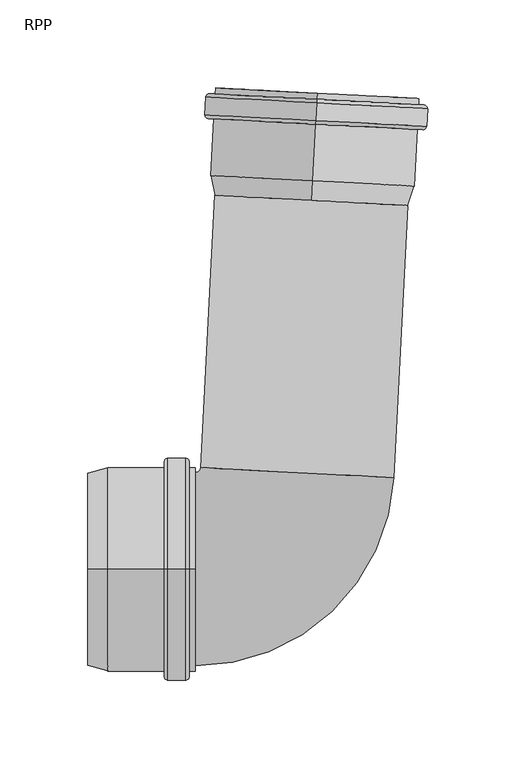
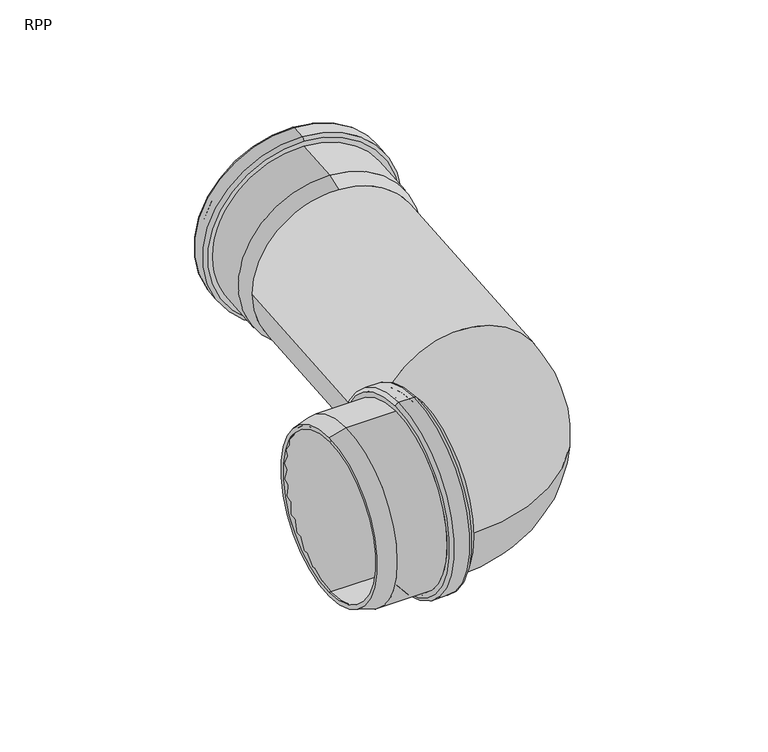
"""IFC4 building model written with IfcOpenShell, lengths in millimetres: pipe fitting geometry, RAUPIANO PLUS Deflection Bend : RPP."""

from ifc_helpers import new_model, si_unit, point, frame, origin, place, context, project, spatial, polyline, circle_curve, ellipse_curve, trimmed, source, transform, mapped, element, save
from ifc_brep_helpers import plane_surface, cylinder_surface, revolved_surface, advanced_brep


def rpp_797b765d(model_context):
    return source(origin(), model_context, "Body", "AdvancedBrep", [
        advanced_brep(
        [(-69.9399449, 0.0, 55.3), (-69.9399449, 0.0, -55.3), (-104.5883307, 0.0, -55.3), (-104.5883307, 0.0, 55.3), (-69.4399449, 0.0, 60.7), (-69.4399449, 0.0, -60.7), (-69.9399449, 0.0, -60.2), (-69.9399449, 0.0, 60.2), (-61.7399449, 0.0, 60.7), (-61.7399449, 0.0, -60.7), (-61.2399449, 0.0, 60.2), (-61.2399449, 0.0, -60.2), (-55.0399449, 0.0, 55.3), (-55.0399449, 0.0, -55.3), (-61.2399449, 0.0, -55.3), (-61.2399449, 0.0, 55.3), (-58.5399449, 0.0, 58.0), (-58.5399449, 0.0, -58.0), (-55.0399449, 0.0, -58.0), (-55.0399449, 0.0, 58.0), (-60.5399449, 0.0, 63.4), (-60.5399449, 0.0, -63.4), (-58.5399449, 0.0, -61.4), (-58.5399449, 0.0, 61.4), (-70.6399449, 0.0, 63.4), (-70.6399449, 0.0, -63.4), (-72.6399449, 0.0, 61.4), (-72.6399449, 0.0, -61.4), (-104.9437924, 0.0, 58.0), (-104.9437924, 0.0, -58.0), (-72.6399449, 0.0, -58.0), (-72.6399449, 0.0, 58.0), (-116.1399449, 0.0, 55.0), (-116.1399449, 0.0, -55.0), (-116.1399449, 0.0, -52.2047543), (-116.1399449, 0.0, 52.2047543)],
        [
            (0, 1, circle_curve(frame((-69.9399449, 0.0, 0.0), z_axis=(1.0, 0.0, 0.0), x_axis=(0.0, 0.0, -1.0)), 55.3)),
            (1, 2),
            (2, 3, circle_curve(frame((-104.5883307, 0.0, 0.0), z_axis=(-1.0, 0.0, 0.0), x_axis=(0.0, 0.0, -1.0)), 55.3)),
            (3, 0),
            (4, 5, circle_curve(frame((-69.4399449, 0.0, 0.0), z_axis=(1.0, 0.0, 0.0), x_axis=(0.0, 0.0, -1.0)), 60.7)),
            (5, 6, circle_curve(frame((-69.4399449, 0.0, -60.2), z_axis=(0.0, 1.0, 0.0), x_axis=(0.0, 0.0, 1.0)), 0.5)),
            (6, 7, circle_curve(frame((-69.9399449, 0.0, 0.0), z_axis=(-1.0, 0.0, 0.0), x_axis=(0.0, 0.0, -1.0)), 60.2)),
            (7, 4, circle_curve(frame((-69.4399449, 0.0, 60.2), z_axis=(0.0, 1.0, 0.0), x_axis=(0.0, 0.0, -1.0)), 0.5)),
            (8, 9, circle_curve(frame((-61.7399449, 0.0, 0.0), z_axis=(1.0, 0.0, 0.0), x_axis=(0.0, 0.0, -1.0)), 60.7)),
            (9, 5),
            (4, 8),
            (10, 11, circle_curve(frame((-61.2399449, 0.0, 0.0), z_axis=(1.0, 0.0, 0.0), x_axis=(0.0, 0.0, -1.0)), 60.2)),
            (11, 9, circle_curve(frame((-61.7399449, 0.0, -60.2), z_axis=(0.0, 1.0, 0.0), x_axis=(0.0, 0.0, 1.0)), 0.5)),
            (8, 10, circle_curve(frame((-61.7399449, 0.0, 60.2), z_axis=(0.0, 1.0, 0.0), x_axis=(0.0, 0.0, -1.0)), 0.5)),
            (12, 13, circle_curve(frame((-55.0399449, 0.0, 0.0), z_axis=(1.0, 0.0, 0.0), x_axis=(0.0, 0.0, -1.0)), 55.3)),
            (13, 14),
            (14, 15, circle_curve(frame((-61.2399449, 0.0, 0.0), z_axis=(-1.0, 0.0, 0.0), x_axis=(0.0, 0.0, -1.0)), 55.3)),
            (15, 12),
            (16, 17, circle_curve(frame((-58.5399449, 0.0, 0.0), z_axis=(1.0, 0.0, 0.0), x_axis=(0.0, 0.0, -1.0)), 58.0)),
            (17, 18),
            (18, 19, circle_curve(frame((-55.0399449, 0.0, 0.0), z_axis=(-1.0, 0.0, 0.0), x_axis=(0.0, 0.0, -1.0)), 58.0)),
            (19, 16),
            (20, 21, circle_curve(frame((-60.5399449, 0.0, 0.0), z_axis=(1.0, 0.0, 0.0), x_axis=(0.0, 0.0, -1.0)), 63.4)),
            (21, 22, circle_curve(frame((-60.5399449, 0.0, -61.4), z_axis=(0.0, -1.0, 0.0), x_axis=(0.0, 0.0, 1.0)), 2.0)),
            (22, 23, circle_curve(frame((-58.5399449, 0.0, 0.0), z_axis=(-1.0, 0.0, 0.0), x_axis=(0.0, 0.0, -1.0)), 61.4)),
            (23, 20, circle_curve(frame((-60.5399449, 0.0, 61.4), z_axis=(0.0, -1.0, 0.0), x_axis=(0.0, 0.0, -1.0)), 2.0)),
            (24, 25, circle_curve(frame((-70.6399449, 0.0, 0.0), z_axis=(1.0, 0.0, 0.0), x_axis=(0.0, 0.0, -1.0)), 63.4)),
            (25, 21),
            (20, 24),
            (26, 27, circle_curve(frame((-72.6399449, 0.0, 0.0), z_axis=(1.0, 0.0, 0.0), x_axis=(0.0, 0.0, -1.0)), 61.4)),
            (27, 25, circle_curve(frame((-70.6399449, 0.0, -61.4), z_axis=(0.0, -1.0, 0.0), x_axis=(0.0, 0.0, 1.0)), 2.0)),
            (24, 26, circle_curve(frame((-70.6399449, 0.0, 61.4), z_axis=(0.0, -1.0, 0.0), x_axis=(0.0, 0.0, -1.0)), 2.0)),
            (28, 29, circle_curve(frame((-104.9437924, 0.0, 0.0), z_axis=(1.0, 0.0, 0.0), x_axis=(0.0, 0.0, -1.0)), 58.0)),
            (29, 30),
            (30, 31, circle_curve(frame((-72.6399449, 0.0, 0.0), z_axis=(-1.0, 0.0, 0.0), x_axis=(0.0, 0.0, -1.0)), 58.0)),
            (31, 28),
            (32, 33, circle_curve(frame((-116.1399449, 0.0, 0.0), z_axis=(1.0, 0.0, 0.0), x_axis=(0.0, 0.0, -1.0)), 55.0)),
            (33, 29),
            (28, 32),
            (2, 34),
            (34, 35, circle_curve(frame((-116.1399449, 0.0, 0.0), z_axis=(-1.0, 0.0, 0.0), x_axis=(0.0, 0.0, -1.0)), 52.2047543)),
            (35, 3),
            (1, 0, circle_curve(frame((-69.9399449, 0.0, 0.0), z_axis=(1.0, 0.0, 0.0), x_axis=(0.0, 0.0, 1.0)), 55.3)),
            (3, 2, circle_curve(frame((-104.5883307, 0.0, 0.0), z_axis=(-1.0, 0.0, 0.0), x_axis=(0.0, 0.0, 1.0)), 55.3)),
            (6, 7, circle_curve(frame((-69.9399449, 0.0, 0.0), z_axis=(1.0, 0.0, 0.0), x_axis=(0.0, 0.0, 1.0)), 60.2)),
            (5, 4, circle_curve(frame((-69.4399449, 0.0, 0.0), z_axis=(1.0, 0.0, 0.0), x_axis=(0.0, 0.0, 1.0)), 60.7)),
            (9, 8, circle_curve(frame((-61.7399449, 0.0, 0.0), z_axis=(1.0, 0.0, 0.0), x_axis=(0.0, 0.0, 1.0)), 60.7)),
            (11, 10, circle_curve(frame((-61.2399449, 0.0, 0.0), z_axis=(1.0, 0.0, 0.0), x_axis=(0.0, 0.0, 1.0)), 60.2)),
            (14, 15, circle_curve(frame((-61.2399449, 0.0, 0.0), z_axis=(1.0, 0.0, 0.0), x_axis=(0.0, 0.0, 1.0)), 55.3)),
            (13, 12, circle_curve(frame((-55.0399449, 0.0, 0.0), z_axis=(1.0, 0.0, 0.0), x_axis=(0.0, 0.0, 1.0)), 55.3)),
            (18, 19, circle_curve(frame((-55.0399449, 0.0, 0.0), z_axis=(1.0, 0.0, 0.0), x_axis=(0.0, 0.0, 1.0)), 58.0)),
            (17, 16, circle_curve(frame((-58.5399449, 0.0, 0.0), z_axis=(1.0, 0.0, 0.0), x_axis=(0.0, 0.0, 1.0)), 58.0)),
            (22, 23, circle_curve(frame((-58.5399449, 0.0, 0.0), z_axis=(1.0, 0.0, 0.0), x_axis=(0.0, 0.0, 1.0)), 61.4)),
            (21, 20, circle_curve(frame((-60.5399449, 0.0, 0.0), z_axis=(1.0, 0.0, 0.0), x_axis=(0.0, 0.0, 1.0)), 63.4)),
            (25, 24, circle_curve(frame((-70.6399449, 0.0, 0.0), z_axis=(1.0, 0.0, 0.0), x_axis=(0.0, 0.0, 1.0)), 63.4)),
            (27, 26, circle_curve(frame((-72.6399449, 0.0, 0.0), z_axis=(1.0, 0.0, 0.0), x_axis=(0.0, 0.0, 1.0)), 61.4)),
            (30, 31, circle_curve(frame((-72.6399449, 0.0, 0.0), z_axis=(1.0, 0.0, 0.0), x_axis=(0.0, 0.0, 1.0)), 58.0)),
            (29, 28, circle_curve(frame((-104.9437924, 0.0, 0.0), z_axis=(1.0, 0.0, 0.0), x_axis=(0.0, 0.0, 1.0)), 58.0)),
            (33, 32, circle_curve(frame((-116.1399449, 0.0, 0.0), z_axis=(1.0, 0.0, 0.0), x_axis=(0.0, 0.0, 1.0)), 55.0)),
            (34, 35, circle_curve(frame((-116.1399449, 0.0, 0.0), z_axis=(1.0, 0.0, 0.0), x_axis=(0.0, 0.0, 1.0)), 52.2047543)),
        ],
        [
            revolved_surface(polyline([(-104.5883307, 0.0, -55.3), (-69.9399449, 0.0, -55.3)]), (-116.1399449, 0.0, 0.0), (-1.0, 0.0, 0.0)),
            revolved_surface(trimmed(ellipse_curve(frame((-69.4399449, 0.0, -60.2), z_axis=(0.0, -1.0, 0.0), x_axis=(0.0, 0.0, 1.0)), 0.5, 0.5), [point((-69.9399449, 0.0, -60.2))], [point((-69.4399449, 0.0, -60.7))], True, "CARTESIAN"), (-116.1399449, 0.0, 0.0), (-1.0, 0.0, 0.0)),
            revolved_surface(polyline([(-69.4399449, 0.0, -60.7), (-61.7399449, 0.0, -60.7)]), (-116.1399449, 0.0, 0.0), (-1.0, 0.0, 0.0)),
            revolved_surface(trimmed(ellipse_curve(frame((-61.7399449, 0.0, -60.2), z_axis=(0.0, -1.0, 0.0), x_axis=(0.0, 0.0, 1.0)), 0.5, 0.5), [point((-61.7399449, 0.0, -60.7))], [point((-61.2399449, 0.0, -60.2))], True, "CARTESIAN"), (-116.1399449, 0.0, 0.0), (-1.0, 0.0, 0.0)),
            revolved_surface(polyline([(-61.2399449, 0.0, -55.3), (-55.0399449, 0.0, -55.3)]), (-116.1399449, 0.0, 0.0), (-1.0, 0.0, 0.0)),
            cylinder_surface(frame((-116.1399449, 0.0, 0.0), z_axis=(-1.0, 0.0, 0.0), x_axis=(0.0, 0.0, -1.0)), 58.0),
            revolved_surface(trimmed(ellipse_curve(frame((-60.5399449, 0.0, -61.4), z_axis=(0.0, 1.0, 0.0), x_axis=(0.0, 0.0, 1.0)), 2.0, 2.0), [point((-58.5399449, 0.0, -61.4))], [point((-60.5399449, 0.0, -63.4))], True, "CARTESIAN"), (-116.1399449, 0.0, 0.0), (-1.0, 0.0, 0.0)),
            cylinder_surface(frame((-116.1399449, 0.0, 0.0), z_axis=(-1.0, 0.0, 0.0), x_axis=(0.0, 0.0, -1.0)), 63.4),
            revolved_surface(trimmed(ellipse_curve(frame((-70.6399449, 0.0, -61.4), z_axis=(0.0, 1.0, 0.0), x_axis=(0.0, 0.0, 1.0)), 2.0, 2.0), [point((-70.6399449, 0.0, -63.4))], [point((-72.6399449, 0.0, -61.4))], True, "CARTESIAN"), (-116.1399449, 0.0, 0.0), (-1.0, 0.0, 0.0)),
            revolved_surface(polyline([(-104.9437924, 0.0, -58.0), (-116.1399449, 0.0, -55.0)]), (-116.1399449, 0.0, 0.0), (-1.0, 0.0, 0.0)),
            revolved_surface(polyline([(-116.1399449, 0.0, -52.2047543), (-104.5883307, 0.0, -55.3)]), (-116.1399449, 0.0, 0.0), (-1.0, 0.0, 0.0)),
            revolved_surface(polyline([(-104.5883307, 0.0, 55.3), (-69.9399449, 0.0, 55.3)]), (-116.1399449, 0.0, 0.0), (-1.0, 0.0, 0.0)),
            plane_surface(frame((-69.9399449, 0.0, 0.0), z_axis=(1.0, 0.0, 0.0), x_axis=(0.0, 0.0, 1.0))),
            revolved_surface(trimmed(ellipse_curve(frame((-69.4399449, 0.0, 60.2), z_axis=(0.0, 1.0, 0.0), x_axis=(0.0, 0.0, -1.0)), 0.5, 0.5), [point((-69.9399449, 0.0, 60.2))], [point((-69.4399449, 0.0, 60.7))], True, "CARTESIAN"), (-116.1399449, 0.0, 0.0), (-1.0, 0.0, 0.0)),
            revolved_surface(polyline([(-69.4399449, 0.0, 60.7), (-61.7399449, 0.0, 60.7)]), (-116.1399449, 0.0, 0.0), (-1.0, 0.0, 0.0)),
            revolved_surface(trimmed(ellipse_curve(frame((-61.7399449, 0.0, 60.2), z_axis=(0.0, 1.0, 0.0), x_axis=(0.0, 0.0, -1.0)), 0.5, 0.5), [point((-61.7399449, 0.0, 60.7))], [point((-61.2399449, 0.0, 60.2))], True, "CARTESIAN"), (-116.1399449, 0.0, 0.0), (-1.0, 0.0, 0.0)),
            plane_surface(frame((-61.2399449, 0.0, 0.0), z_axis=(-1.0, 0.0, 0.0), x_axis=(0.0, 0.0, 1.0))),
            revolved_surface(polyline([(-61.2399449, 0.0, 55.3), (-55.0399449, 0.0, 55.3)]), (-116.1399449, 0.0, 0.0), (-1.0, 0.0, 0.0)),
            plane_surface(frame((-55.0399449, 0.0, 0.0), z_axis=(1.0, 0.0, 0.0), x_axis=(0.0, 0.0, 1.0))),
            cylinder_surface(frame((-116.1399449, 0.0, 0.0), z_axis=(-1.0, 0.0, 0.0), x_axis=(0.0, 0.0, 1.0)), 58.0),
            plane_surface(frame((-58.5399449, 0.0, 0.0), z_axis=(1.0, 0.0, 0.0), x_axis=(0.0, 0.0, 1.0))),
            revolved_surface(trimmed(ellipse_curve(frame((-60.5399449, 0.0, 61.4), z_axis=(0.0, -1.0, 0.0), x_axis=(0.0, 0.0, -1.0)), 2.0, 2.0), [point((-58.5399449, 0.0, 61.4))], [point((-60.5399449, 0.0, 63.4))], True, "CARTESIAN"), (-116.1399449, 0.0, 0.0), (-1.0, 0.0, 0.0)),
            cylinder_surface(frame((-116.1399449, 0.0, 0.0), z_axis=(-1.0, 0.0, 0.0), x_axis=(0.0, 0.0, 1.0)), 63.4),
            revolved_surface(trimmed(ellipse_curve(frame((-70.6399449, 0.0, 61.4), z_axis=(0.0, -1.0, 0.0), x_axis=(0.0, 0.0, -1.0)), 2.0, 2.0), [point((-70.6399449, 0.0, 63.4))], [point((-72.6399449, 0.0, 61.4))], True, "CARTESIAN"), (-116.1399449, 0.0, 0.0), (-1.0, 0.0, 0.0)),
            plane_surface(frame((-72.6399449, 0.0, 0.0), z_axis=(-1.0, 0.0, 0.0), x_axis=(0.0, 0.0, 1.0))),
            revolved_surface(polyline([(-104.9437924, 0.0, 58.0), (-116.1399449, 0.0, 55.0)]), (-116.1399449, 0.0, 0.0), (-1.0, 0.0, 0.0)),
            plane_surface(frame((-116.1399449, 0.0, 0.0), z_axis=(-1.0, 0.0, 0.0), x_axis=(0.0, 0.0, 1.0))),
            revolved_surface(polyline([(-116.1399449, 0.0, 52.2047543), (-104.5883307, 0.0, 55.3)]), (-116.1399449, 0.0, 0.0), (-1.0, 0.0, 0.0)),
        ],
        [
            (0, [[1, 2, 3, 4]]),
            (1, [[5, 6, 7, 8]]),
            (2, [[9, 10, -5, 11]]),
            (3, [[12, 13, -9, 14]]),
            (4, [[15, 16, 17, 18]]),
            (5, [[19, 20, 21, 22]]),
            (6, [[23, 24, 25, 26]]),
            (7, [[27, 28, -23, 29]]),
            (8, [[30, 31, -27, 32]]),
            (5, [[33, 34, 35, 36]]),
            (9, [[37, 38, -33, 39]]),
            (10, [[-3, 40, 41, 42]]),
            (11, [[43, -4, 44, -2]]),
            (12, [[45, -7], [-43, -1]]),
            (13, [[46, -8, -45, -6]]),
            (14, [[47, -11, -46, -10]]),
            (15, [[48, -14, -47, -13]]),
            (16, [[-48, -12], [49, -17]]),
            (17, [[50, -18, -49, -16]]),
            (18, [[51, -21], [-50, -15]]),
            (19, [[52, -22, -51, -20]]),
            (20, [[53, -25], [-52, -19]]),
            (21, [[54, -26, -53, -24]]),
            (22, [[55, -29, -54, -28]]),
            (23, [[56, -32, -55, -31]]),
            (24, [[-56, -30], [57, -35]]),
            (19, [[58, -36, -57, -34]]),
            (25, [[59, -39, -58, -38]]),
            (26, [[-59, -37], [60, -41]]),
            (27, [[-44, -42, -60, -40]]),
        ],
    ),
        advanced_brep(
        [(-55.0399449, 0.0, -52.3), (-116.1399449, 0.0, -52.3), (-116.1399449, 0.0, 52.3), (-55.0399449, 0.0, 52.3), (-55.0399449, -52.3, 0.0), (-112.4078941, 0.0, 55.0), (-112.4078941, 0.0, -55.0), (-55.0399449, 0.0, -55.0), (-55.0399449, -55.0, 0.0), (-55.0399449, 0.0, 55.0), (-116.1399449, 0.0, 54.0), (-116.1399449, 0.0, -54.0), (-55.0399449, 52.3, 0.0), (-55.0399449, 55.0, 0.0), (-49.3477565, 57.701685, 0.0), (55.1088928, 52.227344, 0.0), (2.8805681, 54.9645145, -52.3), (2.8805681, 54.9645145, 52.3), (-52.0440563, 57.8429921, 0.0), (57.8051926, 52.0860369, 0.0), (2.8805681, 54.9645145, 55.0), (2.8805681, 54.9645145, -55.0), (65.9172658, 206.8736148, 0.0), (-43.931983, 212.63057, 0.0), (63.220966, 207.0149219, 0.0), (-41.2356833, 212.4892629, 0.0)],
        [
            (0, 1),
            (1, 2, circle_curve(frame((-116.1399449, 0.0, 0.0), z_axis=(-1.0, 0.0, 0.0), x_axis=(0.0, 0.0, -1.0)), 52.3)),
            (2, 3),
            (3, 4, circle_curve(frame((-55.0399449, 0.0, 0.0), z_axis=(1.0, 0.0, 0.0), x_axis=(0.0, 0.0, -1.0)), 52.3)),
            (4, 0, circle_curve(frame((-55.0399449, 0.0, 0.0), z_axis=(1.0, 0.0, 0.0), x_axis=(0.0, 0.0, -1.0)), 52.3)),
            (5, 6, circle_curve(frame((-112.4078941, 0.0, 0.0), z_axis=(1.0, 0.0, 0.0), x_axis=(0.0, 0.0, -1.0)), 55.0)),
            (6, 7),
            (7, 8, circle_curve(frame((-55.0399449, 0.0, 0.0), z_axis=(-1.0, 0.0, 0.0), x_axis=(0.0, 0.0, -1.0)), 55.0)),
            (8, 9, circle_curve(frame((-55.0399449, 0.0, 0.0), z_axis=(-1.0, 0.0, 0.0), x_axis=(0.0, 0.0, -1.0)), 55.0)),
            (9, 5),
            (5, 10),
            (10, 11, circle_curve(frame((-116.1399449, 0.0, 0.0), z_axis=(1.0, 0.0, 0.0), x_axis=(0.0, 0.0, -1.0)), 54.0)),
            (11, 6),
            (0, 12, circle_curve(frame((-55.0399449, 0.0, 0.0), z_axis=(1.0, 0.0, 0.0), x_axis=(0.0, 0.0, 1.0)), 52.3)),
            (12, 3, circle_curve(frame((-55.0399449, 0.0, 0.0), z_axis=(1.0, 0.0, 0.0), x_axis=(0.0, 0.0, 1.0)), 52.3)),
            (2, 1, circle_curve(frame((-116.1399449, 0.0, 0.0), z_axis=(-1.0, 0.0, 0.0), x_axis=(0.0, 0.0, 1.0)), 52.3)),
            (6, 5, circle_curve(frame((-112.4078941, 0.0, 0.0), z_axis=(1.0, 0.0, 0.0), x_axis=(0.0, 0.0, 1.0)), 55.0)),
            (9, 13, circle_curve(frame((-55.0399449, 0.0, 0.0), z_axis=(-1.0, 0.0, 0.0), x_axis=(0.0, 0.0, 1.0)), 55.0)),
            (13, 7, circle_curve(frame((-55.0399449, 0.0, 0.0), z_axis=(-1.0, 0.0, 0.0), x_axis=(0.0, 0.0, 1.0)), 55.0)),
            (11, 10, circle_curve(frame((-116.1399449, 0.0, 0.0), z_axis=(1.0, 0.0, 0.0), x_axis=(0.0, 0.0, 1.0)), 54.0)),
            (14, 12, circle_curve(frame((-55.0399449, 58.0, 0.0), z_axis=(0.0, 0.0, -1.0), x_axis=(0.0, -1.0, 0.0)), 5.7)),
            (4, 15, circle_curve(frame((-55.0399449, 58.0, 0.0), z_axis=(0.0, 0.0, 1.0), x_axis=(0.0, -1.0, 0.0)), 110.3)),
            (15, 16, circle_curve(frame((2.8805681, 54.9645145, 0.0), z_axis=(0.05233595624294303, 0.9986295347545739, 0.0), x_axis=(-0.9986295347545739, 0.05233595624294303, 0.0)), 52.3)),
            (16, 14, circle_curve(frame((2.8805681, 54.9645145, 0.0), z_axis=(0.05233595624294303, 0.9986295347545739, 0.0), x_axis=(-0.9986295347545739, 0.05233595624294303, 0.0)), 52.3)),
            (14, 17, circle_curve(frame((2.8805681, 54.9645145, 0.0), z_axis=(0.05233595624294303, 0.9986295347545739, 0.0), x_axis=(-0.9986295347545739, 0.05233595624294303, 0.0)), 52.3)),
            (17, 15, circle_curve(frame((2.8805681, 54.9645145, 0.0), z_axis=(0.05233595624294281, 0.9986295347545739, 0.0), x_axis=(-0.9986295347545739, 0.05233595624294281, 0.0)), 52.3)),
            (18, 13, circle_curve(frame((-55.0399449, 58.0, 0.0), z_axis=(0.0, 0.0, -1.0), x_axis=(0.0, -1.0, 0.0)), 3.0)),
            (8, 19, circle_curve(frame((-55.0399449, 58.0, 0.0), z_axis=(0.0, 0.0, 1.0), x_axis=(0.0, -1.0, 0.0)), 113.0)),
            (19, 20, circle_curve(frame((2.8805681, 54.9645145, 0.0), z_axis=(-0.05233595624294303, -0.9986295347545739, 0.0), x_axis=(-0.9986295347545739, 0.05233595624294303, 0.0)), 55.0)),
            (20, 18, circle_curve(frame((2.8805681, 54.9645145, 0.0), z_axis=(-0.05233595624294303, -0.9986295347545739, 0.0), x_axis=(-0.9986295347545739, 0.05233595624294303, 0.0)), 55.0)),
            (18, 21, circle_curve(frame((2.8805681, 54.9645145, 0.0), z_axis=(-0.05233595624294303, -0.9986295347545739, 0.0), x_axis=(-0.9986295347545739, 0.05233595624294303, 0.0)), 55.0)),
            (21, 19, circle_curve(frame((2.8805681, 54.9645145, 0.0), z_axis=(-0.05233595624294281, -0.9986295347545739, 0.0), x_axis=(-0.9986295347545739, 0.05233595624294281, 0.0)), 55.0)),
            (22, 23, circle_curve(frame((10.9926414, 209.7520924, 0.0), z_axis=(0.05233595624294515, 0.9986295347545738, 0.0), x_axis=(-0.9986295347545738, 0.05233595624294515, 0.0)), 55.0)),
            (23, 22, circle_curve(frame((10.9926414, 209.7520924, 0.0), z_axis=(0.05233595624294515, 0.9986295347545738, 0.0), x_axis=(-0.9986295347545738, 0.05233595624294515, 0.0)), 55.0)),
            (24, 25, circle_curve(frame((10.9926414, 209.7520924, 0.0), z_axis=(-0.05233595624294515, -0.9986295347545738, 0.0), x_axis=(-0.9986295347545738, 0.05233595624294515, 0.0)), 52.3)),
            (25, 24, circle_curve(frame((10.9926414, 209.7520924, 0.0), z_axis=(-0.05233595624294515, -0.9986295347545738, 0.0), x_axis=(-0.9986295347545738, 0.05233595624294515, 0.0)), 52.3)),
            (25, 14),
            (15, 24),
            (23, 18),
            (19, 22),
        ],
        [
            revolved_surface(polyline([(-116.1399449, 0.0, -52.3), (-55.0399449, 0.0, -52.3)]), (-55.0399449, 0.0, 0.0), (-1.0, 0.0, 0.0)),
            cylinder_surface(frame((-55.0399449, 0.0, 0.0), z_axis=(-1.0, 0.0, 0.0), x_axis=(0.0, 0.0, -1.0)), 55.0),
            revolved_surface(polyline([(-112.4078941, 0.0, -55.0), (-116.1399449, 0.0, -54.0)]), (-55.0399449, 0.0, 0.0), (-1.0, 0.0, 0.0)),
            revolved_surface(polyline([(-116.1399449, 0.0, 52.3), (-55.0399449, 0.0, 52.3)]), (-55.0399449, 0.0, 0.0), (-1.0, 0.0, 0.0)),
            cylinder_surface(frame((-55.0399449, 0.0, 0.0), z_axis=(-1.0, 0.0, 0.0), x_axis=(0.0, 0.0, 1.0)), 55.0),
            revolved_surface(polyline([(-112.4078941, 0.0, 55.0), (-116.1399449, 0.0, 54.0)]), (-55.0399449, 0.0, 0.0), (-1.0, 0.0, 0.0)),
            plane_surface(frame((-116.1399449, 0.0, 0.0), z_axis=(-1.0, 0.0, 0.0), x_axis=(0.0, 0.0, 1.0))),
            revolved_surface(trimmed(ellipse_curve(frame((-55.0399449, 0.0, 0.0), z_axis=(1.0, 0.0, 0.0), x_axis=(0.0, 1.0, 0.0)), 52.3, 52.3), [point((-55.0399449, -52.3, 0.0))], [point((-55.0399449, 52.3, 0.0))], True, "CARTESIAN"), (-55.0399449, 58.0, 0.0), (0.0, 0.0, 1.0)),
            revolved_surface(trimmed(ellipse_curve(frame((-55.0399449, 0.0, 0.0), z_axis=(1.0, 0.0, 0.0), x_axis=(0.0, 1.0, 0.0)), 52.3, 52.3), [point((-55.0399449, 52.3, 0.0))], [point((-55.0399449, -52.3, 0.0))], True, "CARTESIAN"), (-55.0399449, 58.0, 0.0), (0.0, 0.0, 1.0)),
            revolved_surface(trimmed(ellipse_curve(frame((-55.0399449, 0.0, 0.0), z_axis=(-1.0, 0.0, 0.0), x_axis=(0.0, 1.0, 0.0)), 55.0, 55.0), [point((-55.0399449, -55.0, 0.0))], [point((-55.0399449, 55.0, 0.0))], True, "CARTESIAN"), (-55.0399449, 58.0, 0.0), (0.0, 0.0, 1.0)),
            revolved_surface(trimmed(ellipse_curve(frame((-55.0399449, 0.0, 0.0), z_axis=(-1.0, 0.0, 0.0), x_axis=(0.0, 1.0, 0.0)), 55.0, 55.0), [point((-55.0399449, 55.0, 0.0))], [point((-55.0399449, -55.0, 0.0))], True, "CARTESIAN"), (-55.0399449, 58.0, 0.0), (0.0, 0.0, 1.0)),
            plane_surface(frame((10.9926414, 209.7520924, 0.0), z_axis=(0.05233595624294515, 0.9986295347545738, 0.0), x_axis=(0.0, 0.0, 1.0))),
            revolved_surface(polyline([(-41.235683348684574, 212.48926292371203, 0.0), (-49.34775656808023, 57.70168500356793, 0.0)]), (2.8805681, 54.9645145, 0.0), (0.05233595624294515, 0.9986295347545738, 0.0)),
            cylinder_surface(frame((2.8805681, 54.9645145, 0.0), z_axis=(-0.05233595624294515, -0.9986295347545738, 0.0), x_axis=(-0.9986295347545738, 0.05233595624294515, 0.0)), 55.0),
        ],
        [
            (0, [[1, 2, 3, 4, 5]]),
            (1, [[6, 7, 8, 9, 10]]),
            (2, [[-6, 11, 12, 13]]),
            (3, [[-1, 14, 15, -3, 16]]),
            (4, [[-7, 17, -10, 18, 19]]),
            (5, [[-13, 20, -11, -17]]),
            (6, [[-12, -20], [-2, -16]]),
            (7, [[21, -14, -5, 22, 23, 24]]),
            (8, [[-21, 25, 26, -22, -4, -15]]),
            (9, [[27, -18, -9, 28, 29, 30]]),
            (10, [[-27, 31, 32, -28, -8, -19]]),
            (11, [[33, 34], [35, 36]]),
            (12, [[-36, 37, -24, -23, 38]]),
            (12, [[-35, -38, -26, -25, -37]]),
            (13, [[-34, 39, -30, -29, 40]]),
            (13, [[-33, -40, -32, -31, -39]]),
        ],
    ),
        advanced_brep(
        [(10.9926414, 209.7520924, 52.2047543), (10.9926414, 209.7520924, -52.2047543), (11.5972061, 221.2878755, -55.3), (11.5972061, 221.2878755, 55.3), (11.5786027, 220.9329009, 58.0), (11.5786027, 220.9329009, -58.0), (10.9926414, 209.7520924, -55.0), (10.9926414, 209.7520924, 55.0), (13.2692555, 253.1924772, 58.0), (13.2692555, 253.1924772, -58.0), (13.3739274, 255.1897363, 63.4), (13.3739274, 255.1897363, -63.4), (13.2692555, 253.1924772, -61.4), (13.2692555, 253.1924772, 61.4), (13.9025205, 265.2758946, 63.4), (13.9025205, 265.2758946, -63.4), (14.0071924, 267.2731536, 61.4), (14.0071924, 267.2731536, -61.4), (14.1903683, 270.768357, 58.0), (14.1903683, 270.768357, -58.0), (14.0071924, 267.2731536, -58.0), (14.0071924, 267.2731536, 58.0), (13.8658854, 264.5768539, 55.3), (13.8658854, 264.5768539, -55.3), (14.1903683, 270.768357, -55.3), (14.1903683, 270.768357, 55.3), (13.8397174, 264.0775391, 60.7), (13.8397174, 264.0775391, -60.7), (13.8658854, 264.5768539, -60.2), (13.8658854, 264.5768539, 60.2), (13.4367305, 256.3880917, 60.7), (13.4367305, 256.3880917, -60.7), (13.4105625, 255.8887769, 60.2), (13.4105625, 255.8887769, -60.2), (13.4105625, 255.8887769, -55.3), (13.4105625, 255.8887769, 55.3)],
        [
            (0, 1, circle_curve(frame((10.9926414, 209.7520924, 0.0), z_axis=(-0.05233595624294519, -0.9986295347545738, 0.0), x_axis=(0.0, 0.0, -1.0)), 52.2047543)),
            (1, 2),
            (2, 3, circle_curve(frame((11.5972061, 221.2878755, 0.0), z_axis=(0.05233595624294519, 0.9986295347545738, 0.0), x_axis=(0.0, 0.0, -1.0)), 55.3)),
            (3, 0),
            (4, 5, circle_curve(frame((11.5786027, 220.9329009, 0.0), z_axis=(-0.05233595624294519, -0.9986295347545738, 0.0), x_axis=(0.0, 0.0, -1.0)), 58.0)),
            (5, 6),
            (6, 7, circle_curve(frame((10.9926414, 209.7520924, 0.0), z_axis=(0.05233595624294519, 0.9986295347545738, 0.0), x_axis=(0.0, 0.0, -1.0)), 55.0)),
            (7, 4),
            (8, 9, circle_curve(frame((13.2692555, 253.1924772, 0.0), z_axis=(-0.05233595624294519, -0.9986295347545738, 0.0), x_axis=(0.0, 0.0, -1.0)), 58.0)),
            (9, 5),
            (4, 8),
            (10, 11, circle_curve(frame((13.3739274, 255.1897363, 0.0), z_axis=(-0.05233595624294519, -0.9986295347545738, 0.0), x_axis=(0.0, 0.0, -1.0)), 63.4)),
            (11, 12, circle_curve(frame((13.3739274, 255.1897363, -61.4), z_axis=(-0.9986295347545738, 0.05233595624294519, 0.0), x_axis=(0.0, 0.0, 1.0)), 2.0)),
            (12, 13, circle_curve(frame((13.2692555, 253.1924772, 0.0), z_axis=(0.05233595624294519, 0.9986295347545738, 0.0), x_axis=(0.0, 0.0, -1.0)), 61.4)),
            (13, 10, circle_curve(frame((13.3739274, 255.1897363, 61.4), z_axis=(-0.9986295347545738, 0.05233595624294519, 0.0), x_axis=(0.0, 0.0, -1.0)), 2.0)),
            (14, 15, circle_curve(frame((13.9025205, 265.2758946, 0.0), z_axis=(-0.05233595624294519, -0.9986295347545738, 0.0), x_axis=(0.0, 0.0, -1.0)), 63.4)),
            (15, 11),
            (10, 14),
            (16, 17, circle_curve(frame((14.0071924, 267.2731536, 0.0), z_axis=(-0.05233595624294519, -0.9986295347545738, 0.0), x_axis=(0.0, 0.0, -1.0)), 61.4)),
            (17, 15, circle_curve(frame((13.9025205, 265.2758946, -61.4), z_axis=(-0.9986295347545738, 0.05233595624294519, 0.0), x_axis=(0.0, 0.0, 1.0)), 2.0)),
            (14, 16, circle_curve(frame((13.9025205, 265.2758946, 61.4), z_axis=(-0.9986295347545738, 0.05233595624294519, 0.0), x_axis=(0.0, 0.0, -1.0)), 2.0)),
            (18, 19, circle_curve(frame((14.1903683, 270.768357, 0.0), z_axis=(-0.05233595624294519, -0.9986295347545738, 0.0), x_axis=(0.0, 0.0, -1.0)), 58.0)),
            (19, 20),
            (20, 21, circle_curve(frame((14.0071924, 267.2731536, 0.0), z_axis=(0.05233595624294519, 0.9986295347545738, 0.0), x_axis=(0.0, 0.0, -1.0)), 58.0)),
            (21, 18),
            (22, 23, circle_curve(frame((13.8658854, 264.5768539, 0.0), z_axis=(-0.05233595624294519, -0.9986295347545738, 0.0), x_axis=(0.0, 0.0, -1.0)), 55.3)),
            (23, 24),
            (24, 25, circle_curve(frame((14.1903683, 270.768357, 0.0), z_axis=(0.05233595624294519, 0.9986295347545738, 0.0), x_axis=(0.0, 0.0, -1.0)), 55.3)),
            (25, 22),
            (26, 27, circle_curve(frame((13.8397174, 264.0775391, 0.0), z_axis=(-0.05233595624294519, -0.9986295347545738, 0.0), x_axis=(0.0, 0.0, -1.0)), 60.7)),
            (27, 28, circle_curve(frame((13.8397174, 264.0775391, -60.2), z_axis=(0.9986295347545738, -0.05233595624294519, 0.0), x_axis=(0.0, 0.0, 1.0)), 0.5)),
            (28, 29, circle_curve(frame((13.8658854, 264.5768539, 0.0), z_axis=(0.05233595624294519, 0.9986295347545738, 0.0), x_axis=(0.0, 0.0, -1.0)), 60.2)),
            (29, 26, circle_curve(frame((13.8397174, 264.0775391, 60.2), z_axis=(0.9986295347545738, -0.05233595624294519, 0.0), x_axis=(0.0, 0.0, -1.0)), 0.5)),
            (30, 31, circle_curve(frame((13.4367305, 256.3880917, 0.0), z_axis=(-0.05233595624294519, -0.9986295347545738, 0.0), x_axis=(0.0, 0.0, -1.0)), 60.7)),
            (31, 27),
            (26, 30),
            (32, 33, circle_curve(frame((13.4105625, 255.8887769, 0.0), z_axis=(-0.05233595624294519, -0.9986295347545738, 0.0), x_axis=(0.0, 0.0, -1.0)), 60.2)),
            (33, 31, circle_curve(frame((13.4367305, 256.3880917, -60.2), z_axis=(0.9986295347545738, -0.05233595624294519, 0.0), x_axis=(0.0, 0.0, 1.0)), 0.5)),
            (30, 32, circle_curve(frame((13.4367305, 256.3880917, 60.2), z_axis=(0.9986295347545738, -0.05233595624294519, 0.0), x_axis=(0.0, 0.0, -1.0)), 0.5)),
            (2, 34),
            (34, 35, circle_curve(frame((13.4105625, 255.8887769, 0.0), z_axis=(0.05233595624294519, 0.9986295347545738, 0.0), x_axis=(0.0, 0.0, -1.0)), 55.3)),
            (35, 3),
            (1, 0, circle_curve(frame((10.9926414, 209.7520924, 0.0), z_axis=(-0.05233595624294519, -0.9986295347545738, 0.0), x_axis=(0.0, 0.0, 1.0)), 52.2047543)),
            (3, 2, circle_curve(frame((11.5972061, 221.2878755, 0.0), z_axis=(0.05233595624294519, 0.9986295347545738, 0.0), x_axis=(0.0, 0.0, 1.0)), 55.3)),
            (6, 7, circle_curve(frame((10.9926414, 209.7520924, 0.0), z_axis=(-0.05233595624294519, -0.9986295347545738, 0.0), x_axis=(0.0, 0.0, 1.0)), 55.0)),
            (5, 4, circle_curve(frame((11.5786027, 220.9329009, 0.0), z_axis=(-0.05233595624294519, -0.9986295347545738, 0.0), x_axis=(0.0, 0.0, 1.0)), 58.0)),
            (9, 8, circle_curve(frame((13.2692555, 253.1924772, 0.0), z_axis=(-0.05233595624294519, -0.9986295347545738, 0.0), x_axis=(0.0, 0.0, 1.0)), 58.0)),
            (12, 13, circle_curve(frame((13.2692555, 253.1924772, 0.0), z_axis=(-0.05233595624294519, -0.9986295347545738, 0.0), x_axis=(0.0, 0.0, 1.0)), 61.4)),
            (11, 10, circle_curve(frame((13.3739274, 255.1897363, 0.0), z_axis=(-0.05233595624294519, -0.9986295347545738, 0.0), x_axis=(0.0, 0.0, 1.0)), 63.4)),
            (15, 14, circle_curve(frame((13.9025205, 265.2758946, 0.0), z_axis=(-0.05233595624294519, -0.9986295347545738, 0.0), x_axis=(0.0, 0.0, 1.0)), 63.4)),
            (17, 16, circle_curve(frame((14.0071924, 267.2731536, 0.0), z_axis=(-0.05233595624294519, -0.9986295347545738, 0.0), x_axis=(0.0, 0.0, 1.0)), 61.4)),
            (20, 21, circle_curve(frame((14.0071924, 267.2731536, 0.0), z_axis=(-0.05233595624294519, -0.9986295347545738, 0.0), x_axis=(0.0, 0.0, 1.0)), 58.0)),
            (19, 18, circle_curve(frame((14.1903683, 270.768357, 0.0), z_axis=(-0.05233595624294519, -0.9986295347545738, 0.0), x_axis=(0.0, 0.0, 1.0)), 58.0)),
            (24, 25, circle_curve(frame((14.1903683, 270.768357, 0.0), z_axis=(-0.05233595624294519, -0.9986295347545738, 0.0), x_axis=(0.0, 0.0, 1.0)), 55.3)),
            (23, 22, circle_curve(frame((13.8658854, 264.5768539, 0.0), z_axis=(-0.05233595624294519, -0.9986295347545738, 0.0), x_axis=(0.0, 0.0, 1.0)), 55.3)),
            (28, 29, circle_curve(frame((13.8658854, 264.5768539, 0.0), z_axis=(-0.05233595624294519, -0.9986295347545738, 0.0), x_axis=(0.0, 0.0, 1.0)), 60.2)),
            (27, 26, circle_curve(frame((13.8397174, 264.0775391, 0.0), z_axis=(-0.05233595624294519, -0.9986295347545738, 0.0), x_axis=(0.0, 0.0, 1.0)), 60.7)),
            (31, 30, circle_curve(frame((13.4367305, 256.3880917, 0.0), z_axis=(-0.05233595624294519, -0.9986295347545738, 0.0), x_axis=(0.0, 0.0, 1.0)), 60.7)),
            (33, 32, circle_curve(frame((13.4105625, 255.8887769, 0.0), z_axis=(-0.05233595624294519, -0.9986295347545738, 0.0), x_axis=(0.0, 0.0, 1.0)), 60.2)),
            (34, 35, circle_curve(frame((13.4105625, 255.8887769, 0.0), z_axis=(-0.05233595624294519, -0.9986295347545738, 0.0), x_axis=(0.0, 0.0, 1.0)), 55.3)),
        ],
        [
            revolved_surface(polyline([(11.5972061, 221.2878755, -55.3), (10.9926414, 209.7520924, -52.2047543)]), (10.9926414, 209.7520924, 0.0), (0.05233595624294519, 0.9986295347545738, 0.0)),
            revolved_surface(polyline([(10.9926414, 209.7520924, -55.0), (11.5786027, 220.9329009, -58.0)]), (10.9926414, 209.7520924, 0.0), (0.05233595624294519, 0.9986295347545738, 0.0)),
            cylinder_surface(frame((10.9926414, 209.7520924, 0.0), z_axis=(0.05233595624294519, 0.9986295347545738, 0.0), x_axis=(0.0, 0.0, -1.0)), 58.0),
            revolved_surface(trimmed(ellipse_curve(frame((13.3739274, 255.1897363, -61.4), z_axis=(0.9986295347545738, -0.05233595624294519, 0.0), x_axis=(0.0, 0.0, 1.0)), 2.0, 2.0), [point((13.2692555, 253.1924772, -61.4))], [point((13.3739274, 255.1897363, -63.4))], True, "CARTESIAN"), (10.9926414, 209.7520924, 0.0), (0.05233595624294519, 0.9986295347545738, 0.0)),
            cylinder_surface(frame((10.9926414, 209.7520924, 0.0), z_axis=(0.05233595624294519, 0.9986295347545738, 0.0), x_axis=(0.0, 0.0, -1.0)), 63.4),
            revolved_surface(trimmed(ellipse_curve(frame((13.9025205, 265.2758946, -61.4), z_axis=(0.9986295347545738, -0.05233595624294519, 0.0), x_axis=(0.0, 0.0, 1.0)), 2.0, 2.0), [point((13.9025205, 265.2758946, -63.4))], [point((14.0071924, 267.2731536, -61.4))], True, "CARTESIAN"), (10.9926414, 209.7520924, 0.0), (0.05233595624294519, 0.9986295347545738, 0.0)),
            revolved_surface(polyline([(14.190368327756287, 270.76835699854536, -55.3), (13.865885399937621, 264.57685390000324, -55.3)]), (10.9926414, 209.7520924, 0.0), (0.05233595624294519, 0.9986295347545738, 0.0)),
            revolved_surface(trimmed(ellipse_curve(frame((13.8397174, 264.0775391, -60.2), z_axis=(-0.9986295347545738, 0.05233595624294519, 0.0), x_axis=(0.0, 0.0, 1.0)), 0.5, 0.5), [point((13.8658854, 264.5768539, -60.2))], [point((13.8397174, 264.0775391, -60.7))], True, "CARTESIAN"), (10.9926414, 209.7520924, 0.0), (0.05233595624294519, 0.9986295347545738, 0.0)),
            revolved_surface(polyline([(13.839717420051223, 264.07753909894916, -60.7), (13.436730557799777, 256.38809169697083, -60.7)]), (10.9926414, 209.7520924, 0.0), (0.05233595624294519, 0.9986295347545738, 0.0)),
            revolved_surface(trimmed(ellipse_curve(frame((13.4367305, 256.3880917, -60.2), z_axis=(-0.9986295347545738, 0.05233595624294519, 0.0), x_axis=(0.0, 0.0, 1.0)), 0.5, 0.5), [point((13.4367305, 256.3880917, -60.7))], [point((13.4105625, 255.8887769, -60.2))], True, "CARTESIAN"), (10.9926414, 209.7520924, 0.0), (0.05233595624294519, 0.9986295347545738, 0.0)),
            revolved_surface(polyline([(13.410562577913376, 255.88877689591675, -55.3), (11.597206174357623, 221.28787549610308, -55.3)]), (10.9926414, 209.7520924, 0.0), (0.05233595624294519, 0.9986295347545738, 0.0)),
            revolved_surface(polyline([(11.5972061, 221.2878755, 55.3), (10.9926414, 209.7520924, 52.2047543)]), (10.9926414, 209.7520924, 0.0), (0.05233595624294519, 0.9986295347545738, 0.0)),
            plane_surface(frame((10.9926414, 209.7520924, 0.0), z_axis=(-0.05233595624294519, -0.9986295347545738, 0.0), x_axis=(0.0, 0.0, 1.0))),
            revolved_surface(polyline([(10.9926414, 209.7520924, 55.0), (11.5786027, 220.9329009, 58.0)]), (10.9926414, 209.7520924, 0.0), (0.05233595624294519, 0.9986295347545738, 0.0)),
            cylinder_surface(frame((10.9926414, 209.7520924, 0.0), z_axis=(0.05233595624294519, 0.9986295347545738, 0.0), x_axis=(0.0, 0.0, 1.0)), 58.0),
            plane_surface(frame((13.2692555, 253.1924772, 0.0), z_axis=(-0.05233595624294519, -0.9986295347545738, 0.0), x_axis=(0.0, 0.0, 1.0))),
            revolved_surface(trimmed(ellipse_curve(frame((13.3739274, 255.1897363, 61.4), z_axis=(-0.9986295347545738, 0.0523359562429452, 0.0), x_axis=(0.0, 0.0, -1.0)), 2.0, 2.0), [point((13.2692555, 253.1924772, 61.4))], [point((13.3739274, 255.1897363, 63.4))], True, "CARTESIAN"), (10.9926414, 209.7520924, 0.0), (0.05233595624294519, 0.9986295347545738, 0.0)),
            cylinder_surface(frame((10.9926414, 209.7520924, 0.0), z_axis=(0.05233595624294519, 0.9986295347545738, 0.0), x_axis=(0.0, 0.0, 1.0)), 63.4),
            revolved_surface(trimmed(ellipse_curve(frame((13.9025205, 265.2758946, 61.4), z_axis=(-0.9986295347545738, 0.0523359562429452, 0.0), x_axis=(0.0, 0.0, -1.0)), 2.0, 2.0), [point((13.9025205, 265.2758946, 63.4))], [point((14.0071924, 267.2731536, 61.4))], True, "CARTESIAN"), (10.9926414, 209.7520924, 0.0), (0.05233595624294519, 0.9986295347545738, 0.0)),
            plane_surface(frame((14.0071924, 267.2731536, 0.0), z_axis=(0.05233595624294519, 0.9986295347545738, 0.0), x_axis=(0.0, 0.0, 1.0))),
            plane_surface(frame((14.1903683, 270.768357, 0.0), z_axis=(0.05233595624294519, 0.9986295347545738, 0.0), x_axis=(0.0, 0.0, 1.0))),
            revolved_surface(polyline([(14.190368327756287, 270.76835699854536, 55.3), (13.865885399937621, 264.57685390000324, 55.3)]), (10.9926414, 209.7520924, 0.0), (0.05233595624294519, 0.9986295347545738, 0.0)),
            plane_surface(frame((13.8658854, 264.5768539, 0.0), z_axis=(-0.05233595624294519, -0.9986295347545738, 0.0), x_axis=(0.0, 0.0, 1.0))),
            revolved_surface(trimmed(ellipse_curve(frame((13.8397174, 264.0775391, 60.2), z_axis=(0.9986295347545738, -0.0523359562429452, 0.0), x_axis=(0.0, 0.0, -1.0)), 0.5, 0.5), [point((13.8658854, 264.5768539, 60.2))], [point((13.8397174, 264.0775391, 60.7))], True, "CARTESIAN"), (10.9926414, 209.7520924, 0.0), (0.05233595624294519, 0.9986295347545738, 0.0)),
            revolved_surface(polyline([(13.839717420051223, 264.07753909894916, 60.7), (13.436730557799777, 256.38809169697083, 60.7)]), (10.9926414, 209.7520924, 0.0), (0.05233595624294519, 0.9986295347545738, 0.0)),
            revolved_surface(trimmed(ellipse_curve(frame((13.4367305, 256.3880917, 60.2), z_axis=(0.9986295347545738, -0.0523359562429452, 0.0), x_axis=(0.0, 0.0, -1.0)), 0.5, 0.5), [point((13.4367305, 256.3880917, 60.7))], [point((13.4105625, 255.8887769, 60.2))], True, "CARTESIAN"), (10.9926414, 209.7520924, 0.0), (0.05233595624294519, 0.9986295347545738, 0.0)),
            plane_surface(frame((13.4105625, 255.8887769, 0.0), z_axis=(0.05233595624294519, 0.9986295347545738, 0.0), x_axis=(0.0, 0.0, 1.0))),
            revolved_surface(polyline([(13.410562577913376, 255.88877689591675, 55.3), (11.597206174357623, 221.28787549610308, 55.3)]), (10.9926414, 209.7520924, 0.0), (0.05233595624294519, 0.9986295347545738, 0.0)),
        ],
        [
            (0, [[1, 2, 3, 4]]),
            (1, [[5, 6, 7, 8]]),
            (2, [[9, 10, -5, 11]]),
            (3, [[12, 13, 14, 15]]),
            (4, [[16, 17, -12, 18]]),
            (5, [[19, 20, -16, 21]]),
            (2, [[22, 23, 24, 25]]),
            (6, [[26, 27, 28, 29]]),
            (7, [[30, 31, 32, 33]]),
            (8, [[34, 35, -30, 36]]),
            (9, [[37, 38, -34, 39]]),
            (10, [[-3, 40, 41, 42]]),
            (11, [[43, -4, 44, -2]]),
            (12, [[45, -7], [-43, -1]]),
            (13, [[46, -8, -45, -6]]),
            (14, [[47, -11, -46, -10]]),
            (15, [[48, -14], [-47, -9]]),
            (16, [[49, -15, -48, -13]]),
            (17, [[50, -18, -49, -17]]),
            (18, [[51, -21, -50, -20]]),
            (19, [[-51, -19], [52, -24]]),
            (14, [[53, -25, -52, -23]]),
            (20, [[-53, -22], [54, -28]]),
            (21, [[55, -29, -54, -27]]),
            (22, [[56, -32], [-55, -26]]),
            (23, [[57, -33, -56, -31]]),
            (24, [[58, -36, -57, -35]]),
            (25, [[59, -39, -58, -38]]),
            (26, [[-59, -37], [60, -41]]),
            (27, [[-44, -42, -60, -40]]),
        ],
    ),
    ])


if __name__ == "__main__":
    model = new_model("IFC4")
    model_context = context("Model", 3, world=origin())
    ifc_project = project(units=[si_unit("LENGTHUNIT", "METRE", prefix="MILLI")], contexts=[model_context])
    site = spatial("IfcSite", under=ifc_project)
    building = spatial("IfcBuilding", under=site)
    placement = place(None, origin())
    rpp_shape = rpp_797b765d(model_context)
    element("IfcPipeFitting", 1, ObjectType="RAUPIANO PLUS Deflection Bend : RPP", at=placement, inside=building, context=model_context, shape_type="MappedRepresentation", body=[
        mapped(rpp_shape, transform((0.0, 0.0, 0.0), x_axis=(1.0, 0.0, 0.0), y_axis=(0.0, 1.0, 0.0), z_axis=(0.0, 0.0, 1.0))),
    ])
    save(model, "model.ifc")
